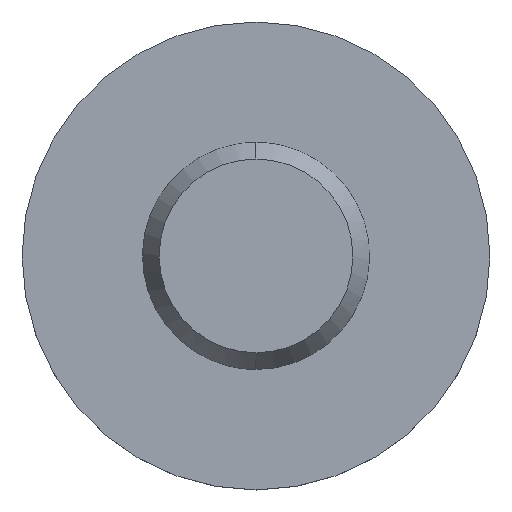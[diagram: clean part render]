
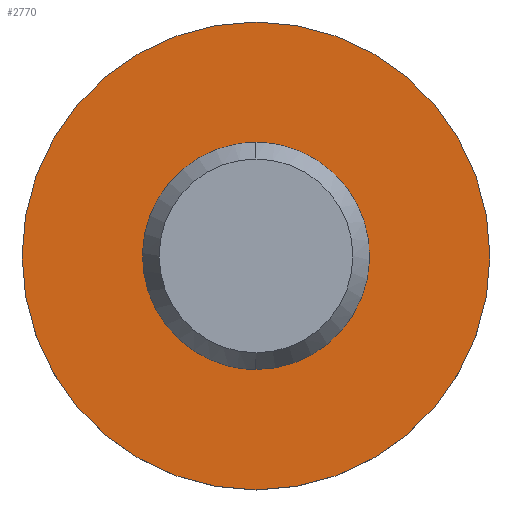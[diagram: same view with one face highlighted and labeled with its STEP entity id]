
A CAD part, top view. The second image highlights one B-rep face of the part: STEP entity #2770.
In plain terms, the highlighted planar face has unit normal (0, 0, 1).
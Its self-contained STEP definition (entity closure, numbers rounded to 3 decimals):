
#2570=CARTESIAN_POINT('',(-164.694,-50.266,
-5.8));
#2580=DIRECTION('',(0.,0.,-1.));
#2590=DIRECTION('',(-1.,0.,0.));
#2600=AXIS2_PLACEMENT_3D('',#2570,#2580,#2590);
#2610=PLANE('',#2600);
#2620=CARTESIAN_POINT('',(0.,0.,
-5.8));
#2630=DIRECTION('',(0.,0.,1.));
#2640=DIRECTION('',(-0.985,-0.174,
0.));
#2650=AXIS2_PLACEMENT_3D('',#2620,#2630,#2640);
#2660=CIRCLE('',#2650,300.);
#2670=CARTESIAN_POINT('',(-295.442,-52.094,
-5.8));
#2680=VERTEX_POINT('',#2670);
#2690=CARTESIAN_POINT('',(295.442,52.094,
-5.8));
#2700=VERTEX_POINT('',#2690);
#2710=EDGE_CURVE('',#2680,#2700,#2660,.T.);
#2720=ORIENTED_EDGE('',*,*,#2710,.T.);
#2730=EDGE_CURVE('',#2700,#2680,#2660,.T.);
#2740=ORIENTED_EDGE('',*,*,#2730,.T.);
#2750=EDGE_LOOP('',(#2740,#2720));
#2760=FACE_OUTER_BOUND('',#2750,.T.);
#2770=ADVANCED_FACE('',(#2760),#2610,.F.);
